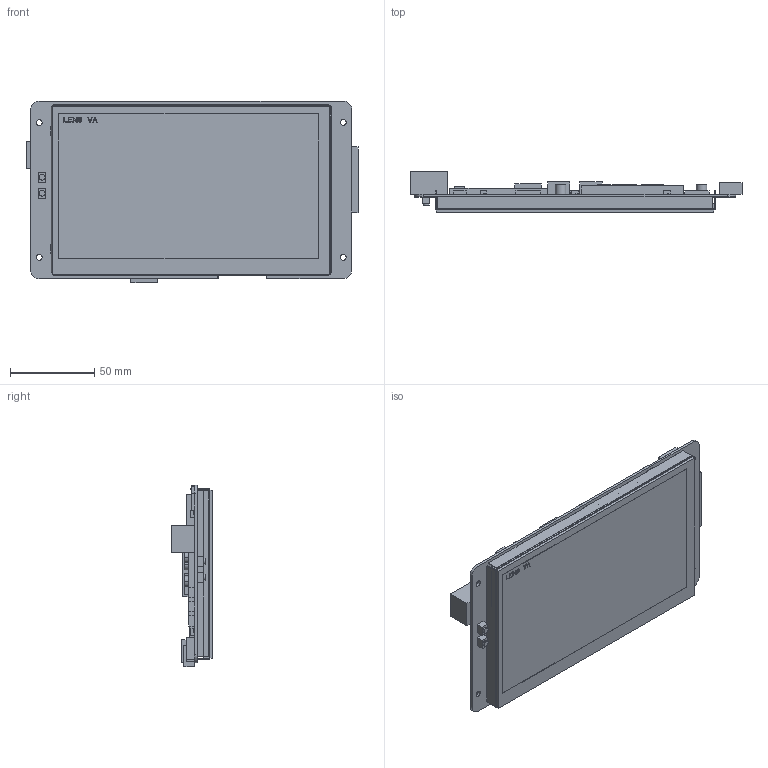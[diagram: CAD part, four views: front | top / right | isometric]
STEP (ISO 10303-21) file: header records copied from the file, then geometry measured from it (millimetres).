
FILE_DESCRIPTION((''),'2;1');
FILE_NAME('DMG10600T070-34WTC_ASM','2022-04-21T',('Administrator'),(''),'PRO/ENGINEER BY PARAMETRIC TECHNOLOGY CORPORATION, 2014320','PRO/ENGINEER BY PARAMETRIC TECHNOLOGY CORPORATION, 2014320','');
FILE_SCHEMA(('CONFIG_CONTROL_DESIGN','SHAPE_APPEARANCE_LAYERS_GROUPS'));
Length unit declared in the file: millimetre
Products named in the file (5): TK070011; LI10600T070HA3004; TPC070T0035; PCB; DMG10600T070-34WTC_ASM
Assembly tree (4 placements, depth 2):
  DMG10600T070-34WTC_ASM
    TK070011
    LI10600T070HA3004
    TPC070T0035
    PCB
Bounding box: 196.95 x 24.68 x 107.87 mm (x, y, z)
Volume: 158765.8 mm3; surface area: 131413.6 mm2
Topology: 4 solids, 4 shells, 507 faces, 1355 edges, 890 vertices
Faces by surface type: plane 390, cylinder 117
Entity records: 17444 total; most frequent: CARTESIAN_POINT 2761, ORIENTED_EDGE 2710, DIRECTION 2621, EDGE_CURVE 1355, VECTOR 1121, LINE 1121, VERTEX_POINT 890, AXIS2_PLACEMENT_3D 750
